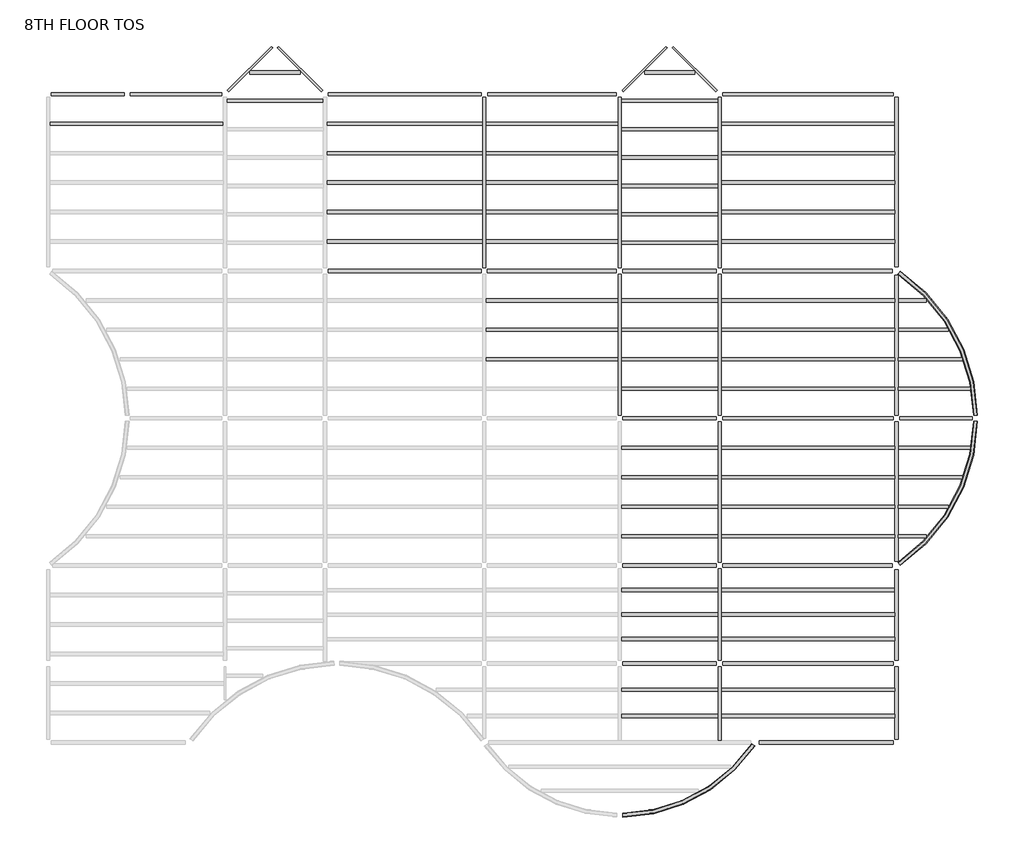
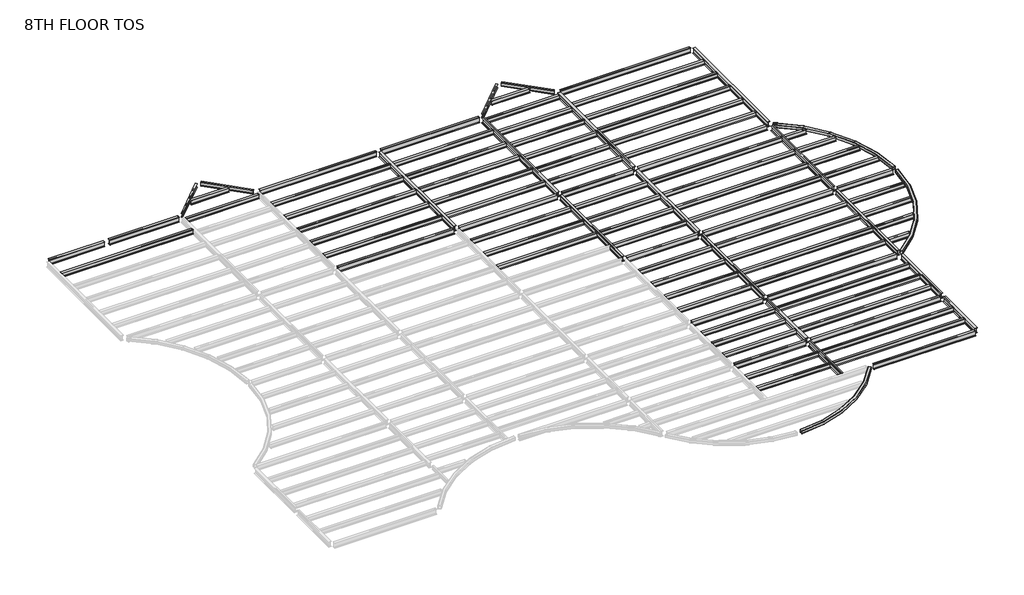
# One storey, part 2 of 2: 99 beams.
"""IFC4 building model written with IfcOpenShell, lengths in millimetres."""

from ifc_helpers import new_model, si_unit, origin, place, context, project, spatial, transform, mapped, element, save
from components import m_hss_square_hss203_2x203_2x9_5_28e91a4e, m_hss_square_hss203_2x203_2x9_5_f31329aa, m_hss_square_hss203_2x203_2x9_5_63507dff, ub_universal_beams_ub254x102x28_7812688d, ub_universal_beams_ub254x102x28_4a38c177, ub_universal_beams_ub305x165x40_c4d0385b, ub_universal_beams_ub305x165x40_19965e16, ub_universal_beams_ub305x165x40_d3abc31d, ub_universal_beams_ub305x165x40_0c73730f, ub_universal_beams_ub305x165x40_2a963f0c, ub_universal_beams_ub305x165x40_9ce7f2ee, ub_universal_beams_ub305x165x40_d184adfd, ub_universal_beams_ub305x165x40_bc7dc938, ub_universal_beams_ub305x165x40_b4233d25, ub_universal_beams_ub356x171x51_c708c058, ub_universal_beams_ub356x171x51_ef72dcdd, ub_universal_beams_ub356x171x51_10b3c54f, ub_universal_beams_ub356x171x51_4c9fd821, ub_universal_beams_ub356x171x51_d1a87c3c, ub_universal_beams_ub356x171x51_fa75724b, ub_universal_beams_ub356x171x51_68db896e, ub_universal_beams_ub356x171x51_c634c4a6, ub_universal_beams_ub356x171x51_995f1560, ub_universal_beams_ub356x171x51_dfc36663, ub_universal_beams_ub356x171x51_11d6b780, ub_universal_beams_ub356x171x51_76b2d20b, ub_universal_beams_ub356x171x51_145ecd4b, ub_universal_beams_ub356x171x51_c7dff8d2, ub_universal_beams_ub356x171x51_8a345439, ub_universal_beams_ub356x171x51_6da510e9, ub_universal_beams_ub356x171x51_e97f8d2e, ub_universal_beams_ub356x171x51_a38b99de, ub_universal_beams_ub356x171x51_d8f4cdde, ub_universal_beams_ub356x171x51_475301e6, ub_universal_beams_ub356x171x51_c03c70fb, ub_universal_beams_ub356x171x51_741bae58

model = new_model("IFC4")

# Units and contexts
model_context = context("Model", 3, world=origin())
ifc_project = project(units=[si_unit("LENGTHUNIT", "METRE", prefix="MILLI")], contexts=[model_context])

# Site, building, storey
site = spatial("IfcSite", under=ifc_project)
building = spatial("IfcBuilding", under=site)
storey = spatial("IfcBuildingStorey", under=building, Name="8TH FLOOR TOS", Elevation=36423.6)

# Beams
placement = place(None, origin())
m_hss_square_hss203_2x203_2x9_5_shape = m_hss_square_hss203_2x203_2x9_5_28e91a4e(model_context)
element("IfcBeam", 1, ObjectType="M_HSS Square : HSS203.2X203.2X9.5", at=placement, inside=storey, context=model_context, shape_type="MappedRepresentation", body=[
    mapped(m_hss_square_hss203_2x203_2x9_5_shape, transform((44027.575, 24539.575, 36322.1), x_axis=(0.8332810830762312, -0.5528495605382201, 0.0), y_axis=(0.5528495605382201, 0.8332810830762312, 0.0), z_axis=(0.0, 0.0, 1.0))),
])
m_hss_square_hss203_2x203_2x9_5_2_shape = m_hss_square_hss203_2x203_2x9_5_f31329aa(model_context)
element("IfcBeam", 2, ObjectType="M_HSS Square : HSS203.2X203.2X9.5", at=placement, inside=storey, context=model_context, shape_type="MappedRepresentation", body=[
    mapped(m_hss_square_hss203_2x203_2x9_5_2_shape, transform((44027.575, 9299.575, 36322.1), x_axis=(0.8332810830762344, 0.5528495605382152, 0.0), y_axis=(-0.5528495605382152, 0.8332810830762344, 0.0), z_axis=(0.0, 0.0, 1.0))),
])
m_hss_square_hss203_2x203_2x9_5_3_shape = m_hss_square_hss203_2x203_2x9_5_63507dff(model_context)
element("IfcBeam", 3, ObjectType="M_HSS Square : HSS203.2X203.2X9.5", at=placement, inside=storey, context=model_context, shape_type="MappedRepresentation", body=[
    mapped(m_hss_square_hss203_2x203_2x9_5_3_shape, transform((36716.575, 155.575, 36322.1), x_axis=(-0.5530174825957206, -0.8331696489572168, 0.0), y_axis=(0.8331696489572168, -0.5530174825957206, 0.0), z_axis=(0.0, 0.0, 1.0))),
])
ub_universal_beams_ub254x102x28_shape = ub_universal_beams_ub254x102x28_7812688d(model_context)
element("IfcBeam", 4, ObjectType="UB-Universal Beams : UB254x102x28", at=placement, inside=storey, context=model_context, shape_type="MappedRepresentation", body=[
    mapped(ub_universal_beams_ub254x102x28_shape, transform((10592.575, 34976.575, 36293.4), x_axis=(0.7071067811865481, 0.7071067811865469, 0.0), y_axis=(-0.7071067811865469, 0.7071067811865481, 0.0), z_axis=(0.0, 0.0, 1.0))),
])
element("IfcBeam", 5, ObjectType="UB-Universal Beams : UB254x102x28", at=placement, inside=storey, context=model_context, shape_type="MappedRepresentation", body=[
    mapped(ub_universal_beams_ub254x102x28_shape, transform((31004.575, 34976.575, 36293.4), x_axis=(0.7071067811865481, 0.7071067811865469, 0.0), y_axis=(-0.7071067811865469, 0.7071067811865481, 0.0), z_axis=(0.0, 0.0, 1.0))),
])
ub_universal_beams_ub254x102x28_2_shape = ub_universal_beams_ub254x102x28_4a38c177(model_context)
element("IfcBeam", 6, ObjectType="UB-Universal Beams : UB254x102x28", at=placement, inside=storey, context=model_context, shape_type="MappedRepresentation", body=[
    mapped(ub_universal_beams_ub254x102x28_2_shape, transform((13178.575, 34976.575, 36293.4), x_axis=(0.707106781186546, -0.707106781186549, 0.0), y_axis=(0.707106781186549, 0.707106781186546, 0.0), z_axis=(0.0, 0.0, 1.0))),
])
element("IfcBeam", 7, ObjectType="UB-Universal Beams : UB254x102x28", at=placement, inside=storey, context=model_context, shape_type="MappedRepresentation", body=[
    mapped(ub_universal_beams_ub254x102x28_2_shape, transform((33590.575, 34976.575, 36293.4), x_axis=(0.7071067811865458, -0.7071067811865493, 0.0), y_axis=(0.7071067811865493, 0.7071067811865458, 0.0), z_axis=(0.0, 0.0, 1.0))),
])
ub_universal_beams_ub305x165x40_shape = ub_universal_beams_ub305x165x40_c4d0385b(model_context)
element("IfcBeam", 8, ObjectType="UB-Universal Beams : UB305x165x40", at=placement, inside=storey, context=model_context, shape_type="MappedRepresentation", body=[
    mapped(ub_universal_beams_ub305x165x40_shape, transform((4727.575, 32159.575, 36271.9), x_axis=(1.0, 0.0, 0.0), y_axis=(0.0, 1.0, 0.0), z_axis=(0.0, 0.0, 1.0))),
])
element("IfcBeam", 9, ObjectType="UB-Universal Beams : UB305x165x40", at=placement, inside=storey, context=model_context, shape_type="MappedRepresentation", body=[
    mapped(ub_universal_beams_ub305x165x40_shape, transform((39455.575, 32159.575, 36271.9), x_axis=(1.0, 0.0, 0.0), y_axis=(0.0, 1.0, 0.0), z_axis=(0.0, 0.0, 1.0))),
])
element("IfcBeam", 10, ObjectType="UB-Universal Beams : UB305x165x40", at=placement, inside=storey, context=model_context, shape_type="MappedRepresentation", body=[
    mapped(ub_universal_beams_ub305x165x40_shape, transform((39455.575, 30635.575, 36271.9), x_axis=(1.0, 0.0, 0.0), y_axis=(0.0, 1.0, 0.0), z_axis=(0.0, 0.0, 1.0))),
])
element("IfcBeam", 11, ObjectType="UB-Universal Beams : UB305x165x40", at=placement, inside=storey, context=model_context, shape_type="MappedRepresentation", body=[
    mapped(ub_universal_beams_ub305x165x40_shape, transform((39455.575, 29111.575, 36271.9), x_axis=(1.0, 0.0, 0.0), y_axis=(0.0, 1.0, 0.0), z_axis=(0.0, 0.0, 1.0))),
])
element("IfcBeam", 12, ObjectType="UB-Universal Beams : UB305x165x40", at=placement, inside=storey, context=model_context, shape_type="MappedRepresentation", body=[
    mapped(ub_universal_beams_ub305x165x40_shape, transform((39455.575, 27587.575, 36271.9), x_axis=(1.0, 0.0, 0.0), y_axis=(0.0, 1.0, 0.0), z_axis=(0.0, 0.0, 1.0))),
])
element("IfcBeam", 13, ObjectType="UB-Universal Beams : UB305x165x40", at=placement, inside=storey, context=model_context, shape_type="MappedRepresentation", body=[
    mapped(ub_universal_beams_ub305x165x40_shape, transform((39455.575, 26063.575, 36271.9), x_axis=(1.0, 0.0, 0.0), y_axis=(0.0, 1.0, 0.0), z_axis=(0.0, 0.0, 1.0))),
])
element("IfcBeam", 14, ObjectType="UB-Universal Beams : UB305x165x40", at=placement, inside=storey, context=model_context, shape_type="MappedRepresentation", body=[
    mapped(ub_universal_beams_ub305x165x40_shape, transform((39455.575, 23015.575, 36271.9), x_axis=(1.0, 0.0, 0.0), y_axis=(0.0, 1.0, 0.0), z_axis=(0.0, 0.0, 1.0))),
])
element("IfcBeam", 15, ObjectType="UB-Universal Beams : UB305x165x40", at=placement, inside=storey, context=model_context, shape_type="MappedRepresentation", body=[
    mapped(ub_universal_beams_ub305x165x40_shape, transform((39455.575, 21491.575, 36271.9), x_axis=(1.0, 0.0, 0.0), y_axis=(0.0, 1.0, 0.0), z_axis=(0.0, 0.0, 1.0))),
])
element("IfcBeam", 16, ObjectType="UB-Universal Beams : UB305x165x40", at=placement, inside=storey, context=model_context, shape_type="MappedRepresentation", body=[
    mapped(ub_universal_beams_ub305x165x40_shape, transform((39455.575, 19967.575, 36271.9), x_axis=(1.0, 0.0, 0.0), y_axis=(0.0, 1.0, 0.0), z_axis=(0.0, 0.0, 1.0))),
])
element("IfcBeam", 17, ObjectType="UB-Universal Beams : UB305x165x40", at=placement, inside=storey, context=model_context, shape_type="MappedRepresentation", body=[
    mapped(ub_universal_beams_ub305x165x40_shape, transform((39455.575, 18443.575, 36271.9), x_axis=(1.0, 0.0, 0.0), y_axis=(0.0, 1.0, 0.0), z_axis=(0.0, 0.0, 1.0))),
])
element("IfcBeam", 18, ObjectType="UB-Universal Beams : UB305x165x40", at=placement, inside=storey, context=model_context, shape_type="MappedRepresentation", body=[
    mapped(ub_universal_beams_ub305x165x40_shape, transform((39455.575, 15395.575, 36271.9), x_axis=(1.0, 0.0, 0.0), y_axis=(0.0, 1.0, 0.0), z_axis=(0.0, 0.0, 1.0))),
])
element("IfcBeam", 19, ObjectType="UB-Universal Beams : UB305x165x40", at=placement, inside=storey, context=model_context, shape_type="MappedRepresentation", body=[
    mapped(ub_universal_beams_ub305x165x40_shape, transform((39455.575, 13871.575, 36271.9), x_axis=(1.0, 0.0, 0.0), y_axis=(0.0, 1.0, 0.0), z_axis=(0.0, 0.0, 1.0))),
])
element("IfcBeam", 20, ObjectType="UB-Universal Beams : UB305x165x40", at=placement, inside=storey, context=model_context, shape_type="MappedRepresentation", body=[
    mapped(ub_universal_beams_ub305x165x40_shape, transform((39455.575, 12347.575, 36271.9), x_axis=(1.0, 0.0, 0.0), y_axis=(0.0, 1.0, 0.0), z_axis=(0.0, 0.0, 1.0))),
])
element("IfcBeam", 21, ObjectType="UB-Universal Beams : UB305x165x40", at=placement, inside=storey, context=model_context, shape_type="MappedRepresentation", body=[
    mapped(ub_universal_beams_ub305x165x40_shape, transform((39455.575, 10823.575, 36271.9), x_axis=(1.0, 0.0, 0.0), y_axis=(0.0, 1.0, 0.0), z_axis=(0.0, 0.0, 1.0))),
])
element("IfcBeam", 22, ObjectType="UB-Universal Beams : UB305x165x40", at=placement, inside=storey, context=model_context, shape_type="MappedRepresentation", body=[
    mapped(ub_universal_beams_ub305x165x40_shape, transform((39455.575, 5508.325, 36271.9), x_axis=(-1.0, 0.0, 0.0), y_axis=(0.0, -1.0, 0.0), z_axis=(0.0, 0.0, 1.0))),
])
element("IfcBeam", 23, ObjectType="UB-Universal Beams : UB305x165x40", at=placement, inside=storey, context=model_context, shape_type="MappedRepresentation", body=[
    mapped(ub_universal_beams_ub305x165x40_shape, transform((39455.575, 6772.075, 36271.9), x_axis=(-1.0, 0.0, 0.0), y_axis=(0.0, -1.0, 0.0), z_axis=(0.0, 0.0, 1.0))),
])
element("IfcBeam", 24, ObjectType="UB-Universal Beams : UB305x165x40", at=placement, inside=storey, context=model_context, shape_type="MappedRepresentation", body=[
    mapped(ub_universal_beams_ub305x165x40_shape, transform((39455.575, 8035.825, 36271.9), x_axis=(-1.0, 0.0, 0.0), y_axis=(0.0, -1.0, 0.0), z_axis=(0.0, 0.0, 1.0))),
])
element("IfcBeam", 25, ObjectType="UB-Universal Beams : UB305x165x40", at=placement, inside=storey, context=model_context, shape_type="MappedRepresentation", body=[
    mapped(ub_universal_beams_ub305x165x40_shape, transform((39455.575, 1518.575, 36271.9), x_axis=(-1.0, 0.0, 0.0), y_axis=(0.0, -1.0, 0.0), z_axis=(0.0, 0.0, 1.0))),
])
element("IfcBeam", 26, ObjectType="UB-Universal Beams : UB305x165x40", at=placement, inside=storey, context=model_context, shape_type="MappedRepresentation", body=[
    mapped(ub_universal_beams_ub305x165x40_shape, transform((39455.575, 2881.575, 36271.9), x_axis=(-1.0, 0.0, 0.0), y_axis=(0.0, -1.0, 0.0), z_axis=(0.0, 0.0, 1.0))),
])
ub_universal_beams_ub305x165x40_2_shape = ub_universal_beams_ub305x165x40_19965e16(model_context)
element("IfcBeam", 27, ObjectType="UB-Universal Beams : UB305x165x40", at=placement, inside=storey, context=model_context, shape_type="MappedRepresentation", body=[
    mapped(ub_universal_beams_ub305x165x40_2_shape, transform((11885.575, 34803.325, 36271.9), x_axis=(1.0, 0.0, 0.0), y_axis=(0.0, 1.0, 0.0), z_axis=(0.0, 0.0, 1.0))),
])
element("IfcBeam", 28, ObjectType="UB-Universal Beams : UB305x165x40", at=placement, inside=storey, context=model_context, shape_type="MappedRepresentation", body=[
    mapped(ub_universal_beams_ub305x165x40_2_shape, transform((32297.575, 34803.325, 36271.9), x_axis=(1.0, 0.0, 0.0), y_axis=(0.0, 1.0, 0.0), z_axis=(0.0, 0.0, 1.0))),
])
ub_universal_beams_ub305x165x40_3_shape = ub_universal_beams_ub305x165x40_d3abc31d(model_context)
element("IfcBeam", 29, ObjectType="UB-Universal Beams : UB305x165x40", at=placement, inside=storey, context=model_context, shape_type="MappedRepresentation", body=[
    mapped(ub_universal_beams_ub305x165x40_3_shape, transform((11885.575, 33337.075, 36271.9), x_axis=(1.0, 0.0, 0.0), y_axis=(0.0, 1.0, 0.0), z_axis=(0.0, 0.0, 1.0))),
])
element("IfcBeam", 30, ObjectType="UB-Universal Beams : UB305x165x40", at=placement, inside=storey, context=model_context, shape_type="MappedRepresentation", body=[
    mapped(ub_universal_beams_ub305x165x40_3_shape, transform((32297.575, 33337.075, 36271.9), x_axis=(1.0, 0.0, 0.0), y_axis=(0.0, 1.0, 0.0), z_axis=(0.0, 0.0, 1.0))),
])
element("IfcBeam", 31, ObjectType="UB-Universal Beams : UB305x165x40", at=placement, inside=storey, context=model_context, shape_type="MappedRepresentation", body=[
    mapped(ub_universal_beams_ub305x165x40_3_shape, transform((32297.575, 31870.825, 36271.9), x_axis=(1.0, 0.0, 0.0), y_axis=(0.0, 1.0, 0.0), z_axis=(0.0, 0.0, 1.0))),
])
element("IfcBeam", 32, ObjectType="UB-Universal Beams : UB305x165x40", at=placement, inside=storey, context=model_context, shape_type="MappedRepresentation", body=[
    mapped(ub_universal_beams_ub305x165x40_3_shape, transform((32297.575, 30404.575, 36271.9), x_axis=(1.0, 0.0, 0.0), y_axis=(0.0, 1.0, 0.0), z_axis=(0.0, 0.0, 1.0))),
])
element("IfcBeam", 33, ObjectType="UB-Universal Beams : UB305x165x40", at=placement, inside=storey, context=model_context, shape_type="MappedRepresentation", body=[
    mapped(ub_universal_beams_ub305x165x40_3_shape, transform((32297.575, 28938.325, 36271.9), x_axis=(1.0, 0.0, 0.0), y_axis=(0.0, 1.0, 0.0), z_axis=(0.0, 0.0, 1.0))),
])
element("IfcBeam", 34, ObjectType="UB-Universal Beams : UB305x165x40", at=placement, inside=storey, context=model_context, shape_type="MappedRepresentation", body=[
    mapped(ub_universal_beams_ub305x165x40_3_shape, transform((32297.575, 27472.075, 36271.9), x_axis=(1.0, 0.0, 0.0), y_axis=(0.0, 1.0, 0.0), z_axis=(0.0, 0.0, 1.0))),
])
element("IfcBeam", 35, ObjectType="UB-Universal Beams : UB305x165x40", at=placement, inside=storey, context=model_context, shape_type="MappedRepresentation", body=[
    mapped(ub_universal_beams_ub305x165x40_3_shape, transform((32297.575, 26005.825, 36271.9), x_axis=(1.0, 0.0, 0.0), y_axis=(0.0, 1.0, 0.0), z_axis=(0.0, 0.0, 1.0))),
])
element("IfcBeam", 36, ObjectType="UB-Universal Beams : UB305x165x40", at=placement, inside=storey, context=model_context, shape_type="MappedRepresentation", body=[
    mapped(ub_universal_beams_ub305x165x40_3_shape, transform((32297.575, 1518.575, 36271.9), x_axis=(-1.0, 0.0, 0.0), y_axis=(0.0, -1.0, 0.0), z_axis=(0.0, 0.0, 1.0))),
])
element("IfcBeam", 37, ObjectType="UB-Universal Beams : UB305x165x40", at=placement, inside=storey, context=model_context, shape_type="MappedRepresentation", body=[
    mapped(ub_universal_beams_ub305x165x40_3_shape, transform((32297.575, 2881.575, 36271.9), x_axis=(-1.0, 0.0, 0.0), y_axis=(0.0, -1.0, 0.0), z_axis=(0.0, 0.0, 1.0))),
])
element("IfcBeam", 38, ObjectType="UB-Universal Beams : UB305x165x40", at=placement, inside=storey, context=model_context, shape_type="MappedRepresentation", body=[
    mapped(ub_universal_beams_ub305x165x40_3_shape, transform((32297.575, 5508.325, 36271.9), x_axis=(-1.0, 0.0, 0.0), y_axis=(0.0, -1.0, 0.0), z_axis=(0.0, 0.0, 1.0))),
])
element("IfcBeam", 39, ObjectType="UB-Universal Beams : UB305x165x40", at=placement, inside=storey, context=model_context, shape_type="MappedRepresentation", body=[
    mapped(ub_universal_beams_ub305x165x40_3_shape, transform((32297.575, 6772.075, 36271.9), x_axis=(-1.0, 0.0, 0.0), y_axis=(0.0, -1.0, 0.0), z_axis=(0.0, 0.0, 1.0))),
])
element("IfcBeam", 40, ObjectType="UB-Universal Beams : UB305x165x40", at=placement, inside=storey, context=model_context, shape_type="MappedRepresentation", body=[
    mapped(ub_universal_beams_ub305x165x40_3_shape, transform((32297.575, 8035.825, 36271.9), x_axis=(-1.0, 0.0, 0.0), y_axis=(0.0, -1.0, 0.0), z_axis=(0.0, 0.0, 1.0))),
])
element("IfcBeam", 41, ObjectType="UB-Universal Beams : UB305x165x40", at=placement, inside=storey, context=model_context, shape_type="MappedRepresentation", body=[
    mapped(ub_universal_beams_ub305x165x40_3_shape, transform((32297.575, 15395.575, 36271.9), x_axis=(1.0, 0.0, 0.0), y_axis=(0.0, 1.0, 0.0), z_axis=(0.0, 0.0, 1.0))),
])
element("IfcBeam", 42, ObjectType="UB-Universal Beams : UB305x165x40", at=placement, inside=storey, context=model_context, shape_type="MappedRepresentation", body=[
    mapped(ub_universal_beams_ub305x165x40_3_shape, transform((32297.575, 13871.575, 36271.9), x_axis=(1.0, 0.0, 0.0), y_axis=(0.0, 1.0, 0.0), z_axis=(0.0, 0.0, 1.0))),
])
element("IfcBeam", 43, ObjectType="UB-Universal Beams : UB305x165x40", at=placement, inside=storey, context=model_context, shape_type="MappedRepresentation", body=[
    mapped(ub_universal_beams_ub305x165x40_3_shape, transform((32297.575, 12347.575, 36271.9), x_axis=(1.0, 0.0, 0.0), y_axis=(0.0, 1.0, 0.0), z_axis=(0.0, 0.0, 1.0))),
])
element("IfcBeam", 44, ObjectType="UB-Universal Beams : UB305x165x40", at=placement, inside=storey, context=model_context, shape_type="MappedRepresentation", body=[
    mapped(ub_universal_beams_ub305x165x40_3_shape, transform((32297.575, 10823.575, 36271.9), x_axis=(1.0, 0.0, 0.0), y_axis=(0.0, 1.0, 0.0), z_axis=(0.0, 0.0, 1.0))),
])
element("IfcBeam", 45, ObjectType="UB-Universal Beams : UB305x165x40", at=placement, inside=storey, context=model_context, shape_type="MappedRepresentation", body=[
    mapped(ub_universal_beams_ub305x165x40_3_shape, transform((32297.575, 23015.575, 36271.9), x_axis=(1.0, 0.0, 0.0), y_axis=(0.0, 1.0, 0.0), z_axis=(0.0, 0.0, 1.0))),
])
element("IfcBeam", 46, ObjectType="UB-Universal Beams : UB305x165x40", at=placement, inside=storey, context=model_context, shape_type="MappedRepresentation", body=[
    mapped(ub_universal_beams_ub305x165x40_3_shape, transform((32297.575, 21491.575, 36271.9), x_axis=(1.0, 0.0, 0.0), y_axis=(0.0, 1.0, 0.0), z_axis=(0.0, 0.0, 1.0))),
])
element("IfcBeam", 47, ObjectType="UB-Universal Beams : UB305x165x40", at=placement, inside=storey, context=model_context, shape_type="MappedRepresentation", body=[
    mapped(ub_universal_beams_ub305x165x40_3_shape, transform((32297.575, 19967.575, 36271.9), x_axis=(1.0, 0.0, 0.0), y_axis=(0.0, 1.0, 0.0), z_axis=(0.0, 0.0, 1.0))),
])
element("IfcBeam", 48, ObjectType="UB-Universal Beams : UB305x165x40", at=placement, inside=storey, context=model_context, shape_type="MappedRepresentation", body=[
    mapped(ub_universal_beams_ub305x165x40_3_shape, transform((32297.575, 18443.575, 36271.9), x_axis=(1.0, 0.0, 0.0), y_axis=(0.0, 1.0, 0.0), z_axis=(0.0, 0.0, 1.0))),
])
ub_universal_beams_ub305x165x40_4_shape = ub_universal_beams_ub305x165x40_0c73730f(model_context)
element("IfcBeam", 49, ObjectType="UB-Universal Beams : UB305x165x40", at=placement, inside=storey, context=model_context, shape_type="MappedRepresentation", body=[
    mapped(ub_universal_beams_ub305x165x40_4_shape, transform((18591.075, 32159.575, 36271.9), x_axis=(1.0, 0.0, 0.0), y_axis=(0.0, 1.0, 0.0), z_axis=(0.0, 0.0, 1.0))),
])
element("IfcBeam", 50, ObjectType="UB-Universal Beams : UB305x165x40", at=placement, inside=storey, context=model_context, shape_type="MappedRepresentation", body=[
    mapped(ub_universal_beams_ub305x165x40_4_shape, transform((18591.075, 30635.575, 36271.9), x_axis=(1.0, 0.0, 0.0), y_axis=(0.0, 1.0, 0.0), z_axis=(0.0, 0.0, 1.0))),
])
element("IfcBeam", 51, ObjectType="UB-Universal Beams : UB305x165x40", at=placement, inside=storey, context=model_context, shape_type="MappedRepresentation", body=[
    mapped(ub_universal_beams_ub305x165x40_4_shape, transform((18591.075, 29111.575, 36271.9), x_axis=(1.0, 0.0, 0.0), y_axis=(0.0, 1.0, 0.0), z_axis=(0.0, 0.0, 1.0))),
])
element("IfcBeam", 52, ObjectType="UB-Universal Beams : UB305x165x40", at=placement, inside=storey, context=model_context, shape_type="MappedRepresentation", body=[
    mapped(ub_universal_beams_ub305x165x40_4_shape, transform((18591.075, 27587.575, 36271.9), x_axis=(1.0, 0.0, 0.0), y_axis=(0.0, 1.0, 0.0), z_axis=(0.0, 0.0, 1.0))),
])
element("IfcBeam", 53, ObjectType="UB-Universal Beams : UB305x165x40", at=placement, inside=storey, context=model_context, shape_type="MappedRepresentation", body=[
    mapped(ub_universal_beams_ub305x165x40_4_shape, transform((18591.075, 26063.575, 36271.9), x_axis=(1.0, 0.0, 0.0), y_axis=(0.0, 1.0, 0.0), z_axis=(0.0, 0.0, 1.0))),
])
ub_universal_beams_ub305x165x40_5_shape = ub_universal_beams_ub305x165x40_2a963f0c(model_context)
element("IfcBeam", 54, ObjectType="UB-Universal Beams : UB305x165x40", at=placement, inside=storey, context=model_context, shape_type="MappedRepresentation", body=[
    mapped(ub_universal_beams_ub305x165x40_5_shape, transform((26211.075, 32159.575, 36271.9), x_axis=(1.0, 0.0, 0.0), y_axis=(0.0, 1.0, 0.0), z_axis=(0.0, 0.0, 1.0))),
])
element("IfcBeam", 55, ObjectType="UB-Universal Beams : UB305x165x40", at=placement, inside=storey, context=model_context, shape_type="MappedRepresentation", body=[
    mapped(ub_universal_beams_ub305x165x40_5_shape, transform((26211.075, 30635.575, 36271.9), x_axis=(1.0, 0.0, 0.0), y_axis=(0.0, 1.0, 0.0), z_axis=(0.0, 0.0, 1.0))),
])
element("IfcBeam", 56, ObjectType="UB-Universal Beams : UB305x165x40", at=placement, inside=storey, context=model_context, shape_type="MappedRepresentation", body=[
    mapped(ub_universal_beams_ub305x165x40_5_shape, transform((26211.075, 29111.575, 36271.9), x_axis=(1.0, 0.0, 0.0), y_axis=(0.0, 1.0, 0.0), z_axis=(0.0, 0.0, 1.0))),
])
element("IfcBeam", 57, ObjectType="UB-Universal Beams : UB305x165x40", at=placement, inside=storey, context=model_context, shape_type="MappedRepresentation", body=[
    mapped(ub_universal_beams_ub305x165x40_5_shape, transform((26211.075, 27587.575, 36271.9), x_axis=(1.0, 0.0, 0.0), y_axis=(0.0, 1.0, 0.0), z_axis=(0.0, 0.0, 1.0))),
])
element("IfcBeam", 58, ObjectType="UB-Universal Beams : UB305x165x40", at=placement, inside=storey, context=model_context, shape_type="MappedRepresentation", body=[
    mapped(ub_universal_beams_ub305x165x40_5_shape, transform((26211.075, 26063.575, 36271.9), x_axis=(1.0, 0.0, 0.0), y_axis=(0.0, 1.0, 0.0), z_axis=(0.0, 0.0, 1.0))),
])
element("IfcBeam", 59, ObjectType="UB-Universal Beams : UB305x165x40", at=placement, inside=storey, context=model_context, shape_type="MappedRepresentation", body=[
    mapped(ub_universal_beams_ub305x165x40_5_shape, transform((26211.075, 23015.575, 36271.9), x_axis=(1.0, 0.0, 0.0), y_axis=(0.0, 1.0, 0.0), z_axis=(0.0, 0.0, 1.0))),
])
element("IfcBeam", 60, ObjectType="UB-Universal Beams : UB305x165x40", at=placement, inside=storey, context=model_context, shape_type="MappedRepresentation", body=[
    mapped(ub_universal_beams_ub305x165x40_5_shape, transform((26211.075, 21491.575, 36271.9), x_axis=(1.0, 0.0, 0.0), y_axis=(0.0, 1.0, 0.0), z_axis=(0.0, 0.0, 1.0))),
])
element("IfcBeam", 61, ObjectType="UB-Universal Beams : UB305x165x40", at=placement, inside=storey, context=model_context, shape_type="MappedRepresentation", body=[
    mapped(ub_universal_beams_ub305x165x40_5_shape, transform((26211.075, 19967.575, 36271.9), x_axis=(1.0, 0.0, 0.0), y_axis=(0.0, 1.0, 0.0), z_axis=(0.0, 0.0, 1.0))),
])
ub_universal_beams_ub305x165x40_6_shape = ub_universal_beams_ub305x165x40_9ce7f2ee(model_context)
element("IfcBeam", 62, ObjectType="UB-Universal Beams : UB305x165x40", at=placement, inside=storey, context=model_context, shape_type="MappedRepresentation", body=[
    mapped(ub_universal_beams_ub305x165x40_6_shape, transform((44907.9405309, 23015.575, 36271.9), x_axis=(1.0, 0.0, 0.0), y_axis=(0.0, 1.0, 0.0), z_axis=(0.0, 0.0, 1.0))),
])
element("IfcBeam", 63, ObjectType="UB-Universal Beams : UB305x165x40", at=placement, inside=storey, context=model_context, shape_type="MappedRepresentation", body=[
    mapped(ub_universal_beams_ub305x165x40_6_shape, transform((44907.9405309, 10823.575, 36271.9), x_axis=(1.0, 0.0, 0.0), y_axis=(0.0, 1.0, 0.0), z_axis=(0.0, 0.0, 1.0))),
])
ub_universal_beams_ub305x165x40_7_shape = ub_universal_beams_ub305x165x40_d184adfd(model_context)
element("IfcBeam", 64, ObjectType="UB-Universal Beams : UB305x165x40", at=placement, inside=storey, context=model_context, shape_type="MappedRepresentation", body=[
    mapped(ub_universal_beams_ub305x165x40_7_shape, transform((45459.5874928, 21491.575, 36271.9), x_axis=(1.0, 0.0, 0.0), y_axis=(0.0, 1.0, 0.0), z_axis=(0.0, 0.0, 1.0))),
])
element("IfcBeam", 65, ObjectType="UB-Universal Beams : UB305x165x40", at=placement, inside=storey, context=model_context, shape_type="MappedRepresentation", body=[
    mapped(ub_universal_beams_ub305x165x40_7_shape, transform((45459.5874928, 12347.575, 36271.9), x_axis=(1.0, 0.0, 0.0), y_axis=(0.0, 1.0, 0.0), z_axis=(0.0, 0.0, 1.0))),
])
ub_universal_beams_ub305x165x40_8_shape = ub_universal_beams_ub305x165x40_bc7dc938(model_context)
element("IfcBeam", 66, ObjectType="UB-Universal Beams : UB305x165x40", at=placement, inside=storey, context=model_context, shape_type="MappedRepresentation", body=[
    mapped(ub_universal_beams_ub305x165x40_8_shape, transform((45810.6153272, 19967.575, 36271.9), x_axis=(1.0, 0.0, 0.0), y_axis=(0.0, 1.0, 0.0), z_axis=(0.0, 0.0, 1.0))),
])
element("IfcBeam", 67, ObjectType="UB-Universal Beams : UB305x165x40", at=placement, inside=storey, context=model_context, shape_type="MappedRepresentation", body=[
    mapped(ub_universal_beams_ub305x165x40_8_shape, transform((45810.6153272, 13871.575, 36271.9), x_axis=(1.0, 0.0, 0.0), y_axis=(0.0, 1.0, 0.0), z_axis=(0.0, 0.0, 1.0))),
])
ub_universal_beams_ub305x165x40_9_shape = ub_universal_beams_ub305x165x40_b4233d25(model_context)
element("IfcBeam", 68, ObjectType="UB-Universal Beams : UB305x165x40", at=placement, inside=storey, context=model_context, shape_type="MappedRepresentation", body=[
    mapped(ub_universal_beams_ub305x165x40_9_shape, transform((46008.1318611, 18443.575, 36271.9), x_axis=(1.0, 0.0, 0.0), y_axis=(0.0, 1.0, 0.0), z_axis=(0.0, 0.0, 1.0))),
])
element("IfcBeam", 69, ObjectType="UB-Universal Beams : UB305x165x40", at=placement, inside=storey, context=model_context, shape_type="MappedRepresentation", body=[
    mapped(ub_universal_beams_ub305x165x40_9_shape, transform((46008.1318611, 15395.575, 36271.9), x_axis=(1.0, 0.0, 0.0), y_axis=(0.0, 1.0, 0.0), z_axis=(0.0, 0.0, 1.0))),
])
ub_universal_beams_ub356x171x51_shape = ub_universal_beams_ub356x171x51_c708c058(model_context)
element("IfcBeam", 70, ObjectType="UB-Universal Beams : UB356x171x51", at=placement, inside=storey, context=model_context, shape_type="MappedRepresentation", body=[
    mapped(ub_universal_beams_ub356x171x51_shape, transform((2200.075, 33683.575, 36246.1), x_axis=(1.0, 0.0, 0.0), y_axis=(0.0, 1.0, 0.0), z_axis=(0.0, 0.0, 1.0))),
])
ub_universal_beams_ub356x171x51_2_shape = ub_universal_beams_ub356x171x51_ef72dcdd(model_context)
element("IfcBeam", 71, ObjectType="UB-Universal Beams : UB356x171x51", at=placement, inside=storey, context=model_context, shape_type="MappedRepresentation", body=[
    mapped(ub_universal_beams_ub356x171x51_2_shape, transform((6772.075, 33683.575, 36246.1), x_axis=(1.0, 0.0, 0.0), y_axis=(0.0, 1.0, 0.0), z_axis=(0.0, 0.0, 1.0))),
])
element("IfcBeam", 72, ObjectType="UB-Universal Beams : UB356x171x51", at=placement, inside=storey, context=model_context, shape_type="MappedRepresentation", body=[
    mapped(ub_universal_beams_ub356x171x51_2_shape, transform((34883.575, 6772.075, 36246.1), x_axis=(0.0, -1.0, 0.0), y_axis=(1.0, 0.0, 0.0), z_axis=(0.0, 0.0, 1.0))),
])
ub_universal_beams_ub356x171x51_3_shape = ub_universal_beams_ub356x171x51_10b3c54f(model_context)
element("IfcBeam", 73, ObjectType="UB-Universal Beams : UB356x171x51", at=placement, inside=storey, context=model_context, shape_type="MappedRepresentation", body=[
    mapped(ub_universal_beams_ub356x171x51_3_shape, transform((18591.075, 33683.575, 36246.1), x_axis=(1.0, 0.0, 0.0), y_axis=(0.0, 1.0, 0.0), z_axis=(0.0, 0.0, 1.0))),
])
ub_universal_beams_ub356x171x51_4_shape = ub_universal_beams_ub356x171x51_4c9fd821(model_context)
element("IfcBeam", 74, ObjectType="UB-Universal Beams : UB356x171x51", at=placement, inside=storey, context=model_context, shape_type="MappedRepresentation", body=[
    mapped(ub_universal_beams_ub356x171x51_4_shape, transform((26211.075, 33683.575, 36246.1), x_axis=(1.0, 0.0, 0.0), y_axis=(0.0, 1.0, 0.0), z_axis=(0.0, 0.0, 1.0))),
])
ub_universal_beams_ub356x171x51_5_shape = ub_universal_beams_ub356x171x51_d1a87c3c(model_context)
element("IfcBeam", 75, ObjectType="UB-Universal Beams : UB356x171x51", at=placement, inside=storey, context=model_context, shape_type="MappedRepresentation", body=[
    mapped(ub_universal_beams_ub356x171x51_5_shape, transform((39455.575, 33683.575, 36246.1), x_axis=(1.0, 0.0, 0.0), y_axis=(0.0, 1.0, 0.0), z_axis=(0.0, 0.0, 1.0))),
])
ub_universal_beams_ub356x171x51_6_shape = ub_universal_beams_ub356x171x51_fa75724b(model_context)
element("IfcBeam", 76, ObjectType="UB-Universal Beams : UB356x171x51", at=placement, inside=storey, context=model_context, shape_type="MappedRepresentation", body=[
    mapped(ub_universal_beams_ub356x171x51_6_shape, transform((44027.575, 29111.575, 36246.1), x_axis=(0.0, -1.0, 0.0), y_axis=(1.0, 0.0, 0.0), z_axis=(0.0, 0.0, 1.0))),
])
ub_universal_beams_ub356x171x51_7_shape = ub_universal_beams_ub356x171x51_68db896e(model_context)
element("IfcBeam", 77, ObjectType="UB-Universal Beams : UB356x171x51", at=placement, inside=storey, context=model_context, shape_type="MappedRepresentation", body=[
    mapped(ub_universal_beams_ub356x171x51_7_shape, transform((44027.575, 6772.075, 36246.1), x_axis=(0.0, -1.0, 0.0), y_axis=(1.0, 0.0, 0.0), z_axis=(0.0, 0.0, 1.0))),
])
ub_universal_beams_ub356x171x51_8_shape = ub_universal_beams_ub356x171x51_c634c4a6(model_context)
element("IfcBeam", 78, ObjectType="UB-Universal Beams : UB356x171x51", at=placement, inside=storey, context=model_context, shape_type="MappedRepresentation", body=[
    mapped(ub_universal_beams_ub356x171x51_8_shape, transform((44027.575, 2200.075, 36246.1), x_axis=(0.0, -1.0, 0.0), y_axis=(1.0, 0.0, 0.0), z_axis=(0.0, 0.0, 1.0))),
])
ub_universal_beams_ub356x171x51_9_shape = ub_universal_beams_ub356x171x51_995f1560(model_context)
element("IfcBeam", 79, ObjectType="UB-Universal Beams : UB356x171x51", at=placement, inside=storey, context=model_context, shape_type="MappedRepresentation", body=[
    mapped(ub_universal_beams_ub356x171x51_9_shape, transform((40372.075, 155.575, 36246.1), x_axis=(-1.0, 0.0, 0.0), y_axis=(0.0, -1.0, 0.0), z_axis=(0.0, 0.0, 1.0))),
])
ub_universal_beams_ub356x171x51_10_shape = ub_universal_beams_ub356x171x51_dfc36663(model_context)
element("IfcBeam", 80, ObjectType="UB-Universal Beams : UB356x171x51", at=placement, inside=storey, context=model_context, shape_type="MappedRepresentation", body=[
    mapped(ub_universal_beams_ub356x171x51_10_shape, transform((46072.075, 16919.575, 36246.1), x_axis=(1.0, 0.0, 0.0), y_axis=(0.0, 1.0, 0.0), z_axis=(0.0, 0.0, 1.0))),
])
ub_universal_beams_ub356x171x51_11_shape = ub_universal_beams_ub356x171x51_11d6b780(model_context)
element("IfcBeam", 81, ObjectType="UB-Universal Beams : UB356x171x51", at=placement, inside=storey, context=model_context, shape_type="MappedRepresentation", body=[
    mapped(ub_universal_beams_ub356x171x51_11_shape, transform((32297.575, 24539.575, 36246.1), x_axis=(1.0, 0.0, 0.0), y_axis=(0.0, 1.0, 0.0), z_axis=(0.0, 0.0, 1.0))),
])
element("IfcBeam", 82, ObjectType="UB-Universal Beams : UB356x171x51", at=placement, inside=storey, context=model_context, shape_type="MappedRepresentation", body=[
    mapped(ub_universal_beams_ub356x171x51_11_shape, transform((32297.575, 9299.575, 36246.1), x_axis=(-1.0, 0.0, 0.0), y_axis=(0.0, -1.0, 0.0), z_axis=(0.0, 0.0, 1.0))),
])
element("IfcBeam", 83, ObjectType="UB-Universal Beams : UB356x171x51", at=placement, inside=storey, context=model_context, shape_type="MappedRepresentation", body=[
    mapped(ub_universal_beams_ub356x171x51_11_shape, transform((32297.575, 16919.575, 36246.1), x_axis=(1.0, 0.0, 0.0), y_axis=(0.0, 1.0, 0.0), z_axis=(0.0, 0.0, 1.0))),
])
element("IfcBeam", 84, ObjectType="UB-Universal Beams : UB356x171x51", at=placement, inside=storey, context=model_context, shape_type="MappedRepresentation", body=[
    mapped(ub_universal_beams_ub356x171x51_11_shape, transform((32297.575, 4244.575, 36246.1), x_axis=(-1.0, 0.0, 0.0), y_axis=(0.0, -1.0, 0.0), z_axis=(0.0, 0.0, 1.0))),
])
ub_universal_beams_ub356x171x51_12_shape = ub_universal_beams_ub356x171x51_76b2d20b(model_context)
element("IfcBeam", 85, ObjectType="UB-Universal Beams : UB356x171x51", at=placement, inside=storey, context=model_context, shape_type="MappedRepresentation", body=[
    mapped(ub_universal_beams_ub356x171x51_12_shape, transform((18591.075, 24539.575, 36246.1), x_axis=(1.0, 0.0, 0.0), y_axis=(0.0, 1.0, 0.0), z_axis=(0.0, 0.0, 1.0))),
])
ub_universal_beams_ub356x171x51_13_shape = ub_universal_beams_ub356x171x51_145ecd4b(model_context)
element("IfcBeam", 86, ObjectType="UB-Universal Beams : UB356x171x51", at=placement, inside=storey, context=model_context, shape_type="MappedRepresentation", body=[
    mapped(ub_universal_beams_ub356x171x51_13_shape, transform((26211.075, 24539.575, 36246.1), x_axis=(1.0, 0.0, 0.0), y_axis=(0.0, 1.0, 0.0), z_axis=(0.0, 0.0, 1.0))),
])
ub_universal_beams_ub356x171x51_14_shape = ub_universal_beams_ub356x171x51_c7dff8d2(model_context)
element("IfcBeam", 87, ObjectType="UB-Universal Beams : UB356x171x51", at=placement, inside=storey, context=model_context, shape_type="MappedRepresentation", body=[
    mapped(ub_universal_beams_ub356x171x51_14_shape, transform((39455.575, 24539.575, 36246.1), x_axis=(1.0, 0.0, 0.0), y_axis=(0.0, 1.0, 0.0), z_axis=(0.0, 0.0, 1.0))),
])
ub_universal_beams_ub356x171x51_15_shape = ub_universal_beams_ub356x171x51_8a345439(model_context)
element("IfcBeam", 88, ObjectType="UB-Universal Beams : UB356x171x51", at=placement, inside=storey, context=model_context, shape_type="MappedRepresentation", body=[
    mapped(ub_universal_beams_ub356x171x51_15_shape, transform((44027.575, 20729.575, 36246.1), x_axis=(0.0, -1.0, 0.0), y_axis=(1.0, 0.0, 0.0), z_axis=(0.0, 0.0, 1.0))),
])
ub_universal_beams_ub356x171x51_16_shape = ub_universal_beams_ub356x171x51_6da510e9(model_context)
element("IfcBeam", 89, ObjectType="UB-Universal Beams : UB356x171x51", at=placement, inside=storey, context=model_context, shape_type="MappedRepresentation", body=[
    mapped(ub_universal_beams_ub356x171x51_16_shape, transform((44027.575, 13109.575, 36246.1), x_axis=(0.0, -1.0, 0.0), y_axis=(1.0, 0.0, 0.0), z_axis=(0.0, 0.0, 1.0))),
])
ub_universal_beams_ub356x171x51_17_shape = ub_universal_beams_ub356x171x51_e97f8d2e(model_context)
element("IfcBeam", 90, ObjectType="UB-Universal Beams : UB356x171x51", at=placement, inside=storey, context=model_context, shape_type="MappedRepresentation", body=[
    mapped(ub_universal_beams_ub356x171x51_17_shape, transform((39455.575, 9299.575, 36246.1), x_axis=(-1.0, 0.0, 0.0), y_axis=(0.0, -1.0, 0.0), z_axis=(0.0, 0.0, 1.0))),
])
ub_universal_beams_ub356x171x51_18_shape = ub_universal_beams_ub356x171x51_a38b99de(model_context)
element("IfcBeam", 91, ObjectType="UB-Universal Beams : UB356x171x51", at=placement, inside=storey, context=model_context, shape_type="MappedRepresentation", body=[
    mapped(ub_universal_beams_ub356x171x51_18_shape, transform((34883.575, 20729.575, 36246.1), x_axis=(0.0, -1.0, 0.0), y_axis=(1.0, 0.0, 0.0), z_axis=(0.0, 0.0, 1.0))),
])
element("IfcBeam", 92, ObjectType="UB-Universal Beams : UB356x171x51", at=placement, inside=storey, context=model_context, shape_type="MappedRepresentation", body=[
    mapped(ub_universal_beams_ub356x171x51_18_shape, transform((34883.575, 13109.575, 36246.1), x_axis=(0.0, -1.0, 0.0), y_axis=(1.0, 0.0, 0.0), z_axis=(0.0, 0.0, 1.0))),
])
element("IfcBeam", 93, ObjectType="UB-Universal Beams : UB356x171x51", at=placement, inside=storey, context=model_context, shape_type="MappedRepresentation", body=[
    mapped(ub_universal_beams_ub356x171x51_18_shape, transform((29711.575, 20729.575, 36246.1), x_axis=(0.0, 1.0, 0.0), y_axis=(-1.0, 0.0, 0.0), z_axis=(0.0, 0.0, 1.0))),
])
ub_universal_beams_ub356x171x51_19_shape = ub_universal_beams_ub356x171x51_d8f4cdde(model_context)
element("IfcBeam", 94, ObjectType="UB-Universal Beams : UB356x171x51", at=placement, inside=storey, context=model_context, shape_type="MappedRepresentation", body=[
    mapped(ub_universal_beams_ub356x171x51_19_shape, transform((29711.575, 29111.575, 36246.1), x_axis=(0.0, 1.0, 0.0), y_axis=(-1.0, 0.0, 0.0), z_axis=(0.0, 0.0, 1.0))),
])
ub_universal_beams_ub356x171x51_20_shape = ub_universal_beams_ub356x171x51_475301e6(model_context)
element("IfcBeam", 95, ObjectType="UB-Universal Beams : UB356x171x51", at=placement, inside=storey, context=model_context, shape_type="MappedRepresentation", body=[
    mapped(ub_universal_beams_ub356x171x51_20_shape, transform((39455.575, 16919.575, 36246.1), x_axis=(1.0, 0.0, 0.0), y_axis=(0.0, 1.0, 0.0), z_axis=(0.0, 0.0, 1.0))),
])
element("IfcBeam", 96, ObjectType="UB-Universal Beams : UB356x171x51", at=placement, inside=storey, context=model_context, shape_type="MappedRepresentation", body=[
    mapped(ub_universal_beams_ub356x171x51_20_shape, transform((39455.575, 4244.575, 36246.1), x_axis=(-1.0, 0.0, 0.0), y_axis=(0.0, -1.0, 0.0), z_axis=(0.0, 0.0, 1.0))),
])
ub_universal_beams_ub356x171x51_21_shape = ub_universal_beams_ub356x171x51_c03c70fb(model_context)
element("IfcBeam", 97, ObjectType="UB-Universal Beams : UB356x171x51", at=placement, inside=storey, context=model_context, shape_type="MappedRepresentation", body=[
    mapped(ub_universal_beams_ub356x171x51_21_shape, transform((34883.575, 29111.575, 36246.1), x_axis=(0.0, -1.0, 0.0), y_axis=(1.0, 0.0, 0.0), z_axis=(0.0, 0.0, 1.0))),
])
element("IfcBeam", 98, ObjectType="UB-Universal Beams : UB356x171x51", at=placement, inside=storey, context=model_context, shape_type="MappedRepresentation", body=[
    mapped(ub_universal_beams_ub356x171x51_21_shape, transform((22710.575, 29111.575, 36246.1), x_axis=(0.0, -1.0, 0.0), y_axis=(1.0, 0.0, 0.0), z_axis=(0.0, 0.0, 1.0))),
])
ub_universal_beams_ub356x171x51_22_shape = ub_universal_beams_ub356x171x51_741bae58(model_context)
element("IfcBeam", 99, ObjectType="UB-Universal Beams : UB356x171x51", at=placement, inside=storey, context=model_context, shape_type="MappedRepresentation", body=[
    mapped(ub_universal_beams_ub356x171x51_22_shape, transform((34883.575, 2200.075, 36246.1), x_axis=(0.0, -1.0, 0.0), y_axis=(1.0, 0.0, 0.0), z_axis=(0.0, 0.0, 1.0))),
])

save(model, "model.ifc")
